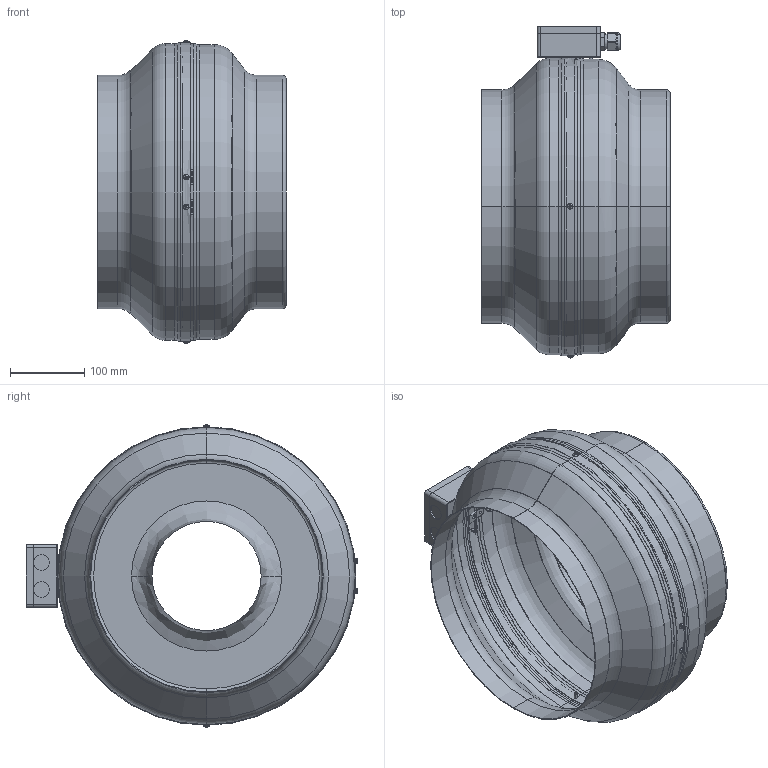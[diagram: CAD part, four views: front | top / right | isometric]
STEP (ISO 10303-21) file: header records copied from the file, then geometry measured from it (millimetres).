
FILE_DESCRIPTION (( 'STEP AP203' ), '1' );
FILE_NAME ('136402-00_RS31510.STEP', '2016-03-18T12:15:09', ( '' ), ( '' ), 'SwSTEP 2.0', 'SolidWorks 2012', '' );
FILE_SCHEMA (( 'CONFIG_CONTROL_DESIGN' ));
Length unit declared in the file: millimetre
Products named in the file (1): 136402-00_RS31510
Bounding box: 253.5 x 446.59 x 407.43 mm (x, y, z)
Surface area: 824838.3 mm2 (no closed solid volume)
Topology: 0 solids, 17 shells, 239 faces, 743 edges, 499 vertices
Faces by surface type: cylinder 84, plane 77, torus 56, cone 20, bspline 2
Entity records: 9687 total; most frequent: CARTESIAN_POINT 3151, DIRECTION 1402, ORIENTED_EDGE 1188, EDGE_CURVE 738, AXIS2_PLACEMENT_3D 560, VERTEX_POINT 499, CIRCLE 322, LINE 282
